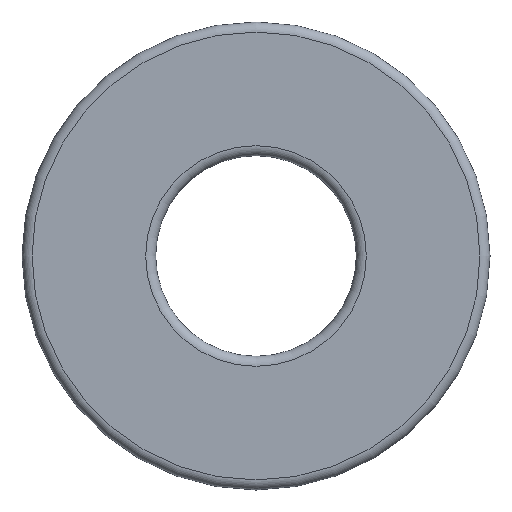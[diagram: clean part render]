
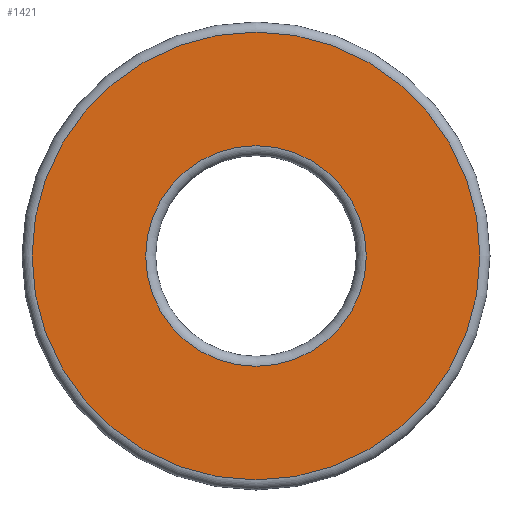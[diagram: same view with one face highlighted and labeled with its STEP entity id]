
A CAD part, front view. The second image highlights one B-rep face of the part: STEP entity #1421.
In plain terms, the highlighted planar face has unit normal (0, -1, 0).
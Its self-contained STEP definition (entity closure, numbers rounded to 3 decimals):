
#116=PLANE('',#1543);
#193=FACE_BOUND('',#382,.T.);
#267=FACE_OUTER_BOUND('',#381,.T.);
#381=EDGE_LOOP('',(#1054));
#382=EDGE_LOOP('',(#1055));
#556=CIRCLE('',#1542,13.4);
#557=CIRCLE('',#1544,6.6);
#741=VERTEX_POINT('',#2486);
#742=VERTEX_POINT('',#2489);
#863=EDGE_CURVE('',#741,#741,#556,.T.);
#864=EDGE_CURVE('',#742,#742,#557,.T.);
#1054=ORIENTED_EDGE('',*,*,#863,.F.);
#1055=ORIENTED_EDGE('',*,*,#864,.F.);
#1421=ADVANCED_FACE('',(#267,#193),#116,.T.);
#1542=AXIS2_PLACEMENT_3D('',#2487,#1870,#1871);
#1543=AXIS2_PLACEMENT_3D('',#2488,#1872,#1873);
#1544=AXIS2_PLACEMENT_3D('',#2490,#1874,#1875);
#1870=DIRECTION('center_axis',(0.,1.,0.));
#1871=DIRECTION('ref_axis',(-1.,0.,0.));
#1872=DIRECTION('center_axis',(0.,-1.,0.));
#1873=DIRECTION('ref_axis',(0.,0.,-1.));
#1874=DIRECTION('center_axis',(0.,-1.,0.));
#1875=DIRECTION('ref_axis',(-1.,0.,0.));
#2486=CARTESIAN_POINT('',(13.4,-5.5,0.));
#2487=CARTESIAN_POINT('Origin',(0.,-5.5,0.));
#2488=CARTESIAN_POINT('Origin',(6.,-5.5,0.));
#2489=CARTESIAN_POINT('',(6.6,-5.5,0.));
#2490=CARTESIAN_POINT('Origin',(0.,-5.5,0.));
